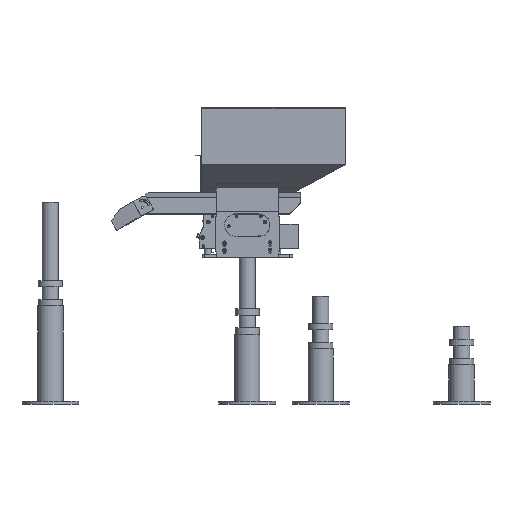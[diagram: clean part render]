
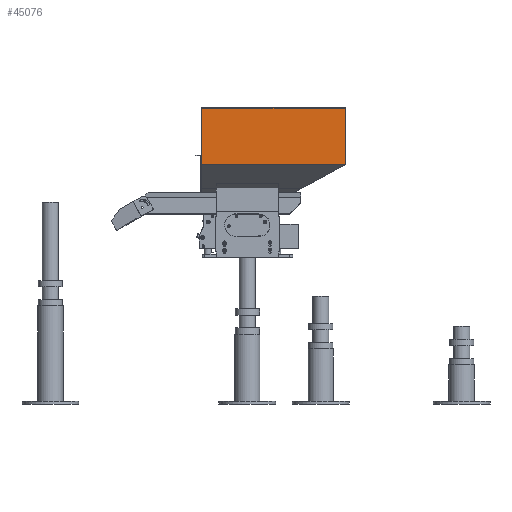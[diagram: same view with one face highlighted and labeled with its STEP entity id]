
A CAD part, front view. The second image highlights one B-rep face of the part: STEP entity #45076.
In plain terms, the highlighted planar face has unit normal (0, -1, 0).
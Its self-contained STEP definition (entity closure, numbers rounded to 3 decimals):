
#1402 = PLANE ( 'NONE',  #22150 ) ;
#1896 = DIRECTION ( 'NONE',  ( 0., -1., 0. ) ) ;
#3377 = CARTESIAN_POINT ( 'NONE',  ( -80.459, -515.892, 1995.38 ) ) ;
#5813 = CARTESIAN_POINT ( 'NONE',  ( -590.459, -515.892, 1995.38 ) ) ;
#6660 = CARTESIAN_POINT ( 'NONE',  ( -590.459, -515.892, 2128.593 ) ) ;
#9404 = DIRECTION ( 'NONE',  ( 0., 0., -1. ) ) ;
#10823 = CARTESIAN_POINT ( 'NONE',  ( -420.459, -515.892, 2195.2 ) ) ;
#10916 = EDGE_CURVE ( 'NONE', #33188, #48285, #44148, .T. ) ;
#11123 = CARTESIAN_POINT ( 'NONE',  ( -80.459, -515.892, 2195.2 ) ) ;
#11252 = EDGE_CURVE ( 'NONE', #48285, #12214, #47174, .T. ) ;
#12214 = VERTEX_POINT ( 'NONE', #40418 ) ;
#13961 = EDGE_CURVE ( 'NONE', #12214, #28055, #34460, .T. ) ;
#14570 = CARTESIAN_POINT ( 'NONE',  ( -590.459, -515.892, 2195.2 ) ) ;
#15174 = ORIENTED_EDGE ( 'NONE', *, *, #11252, .T. ) ;
#16683 = CARTESIAN_POINT ( 'NONE',  ( -460.459, -515.892, 2237.2 ) ) ;
#16975 = EDGE_LOOP ( 'NONE', ( #30371, #41936, #28839, #15174 ) ) ;
#17017 = B_SPLINE_CURVE_WITH_KNOTS ( 'NONE', 3,
 ( #17964, #25729, #40076, #36539 ),
 .UNSPECIFIED., .F., .F.,
 ( 4, 4 ),
 ( 0., 1. ),
 .UNSPECIFIED. ) ;
#17964 = CARTESIAN_POINT ( 'NONE',  ( -80.459, -515.892, 1995.38 ) ) ;
#18640 = CARTESIAN_POINT ( 'NONE',  ( -80.459, -515.892, 2061.987 ) ) ;
#18925 = CARTESIAN_POINT ( 'NONE',  ( -590.459, -515.892, 1995.38 ) ) ;
#20932 = FACE_OUTER_BOUND ( 'NONE', #16975, .T. ) ;
#21848 = CARTESIAN_POINT ( 'NONE',  ( -250.459, -515.892, 2195.2 ) ) ;
#22150 = AXIS2_PLACEMENT_3D ( 'NONE', #16683, #1896, #9404 ) ;
#22171 = CARTESIAN_POINT ( 'NONE',  ( -80.459, -515.892, 2128.593 ) ) ;
#22354 = CARTESIAN_POINT ( 'NONE',  ( -80.459, -515.892, 2195.2 ) ) ;
#25729 = CARTESIAN_POINT ( 'NONE',  ( -250.459, -515.892, 1995.38 ) ) ;
#28055 = VERTEX_POINT ( 'NONE', #5813 ) ;
#28839 = ORIENTED_EDGE ( 'NONE', *, *, #10916, .T. ) ;
#29969 = CARTESIAN_POINT ( 'NONE',  ( -590.459, -515.892, 2061.987 ) ) ;
#30371 = ORIENTED_EDGE ( 'NONE', *, *, #13961, .T. ) ;
#31359 = CARTESIAN_POINT ( 'NONE',  ( -80.459, -515.892, 1995.38 ) ) ;
#31727 = CARTESIAN_POINT ( 'NONE',  ( -80.459, -515.892, 2195.2 ) ) ;
#33188 = VERTEX_POINT ( 'NONE', #31359 ) ;
#34460 = B_SPLINE_CURVE_WITH_KNOTS ( 'NONE', 3,
 ( #38007, #6660, #29969, #18925 ),
 .UNSPECIFIED., .F., .F.,
 ( 4, 4 ),
 ( 0., 1. ),
 .UNSPECIFIED. ) ;
#36539 = CARTESIAN_POINT ( 'NONE',  ( -590.459, -515.892, 1995.38 ) ) ;
#38007 = CARTESIAN_POINT ( 'NONE',  ( -590.459, -515.892, 2195.2 ) ) ;
#40076 = CARTESIAN_POINT ( 'NONE',  ( -420.459, -515.892, 1995.38 ) ) ;
#40218 = EDGE_CURVE ( 'NONE', #33188, #28055, #17017, .T. ) ;
#40418 = CARTESIAN_POINT ( 'NONE',  ( -590.459, -515.892, 2195.2 ) ) ;
#41936 = ORIENTED_EDGE ( 'NONE', *, *, #40218, .F. ) ;
#44148 = B_SPLINE_CURVE_WITH_KNOTS ( 'NONE', 3,
 ( #3377, #18640, #22171, #11123 ),
 .UNSPECIFIED., .F., .F.,
 ( 4, 4 ),
 ( 0., 1. ),
 .UNSPECIFIED. ) ;
#45076 = ADVANCED_FACE ( 'NONE', ( #20932 ), #1402, .T. ) ;
#47174 = B_SPLINE_CURVE_WITH_KNOTS ( 'NONE', 3,
 ( #22354, #21848, #10823, #14570 ),
 .UNSPECIFIED., .F., .F.,
 ( 4, 4 ),
 ( 0., 1. ),
 .UNSPECIFIED. ) ;
#48285 = VERTEX_POINT ( 'NONE', #31727 ) ;
